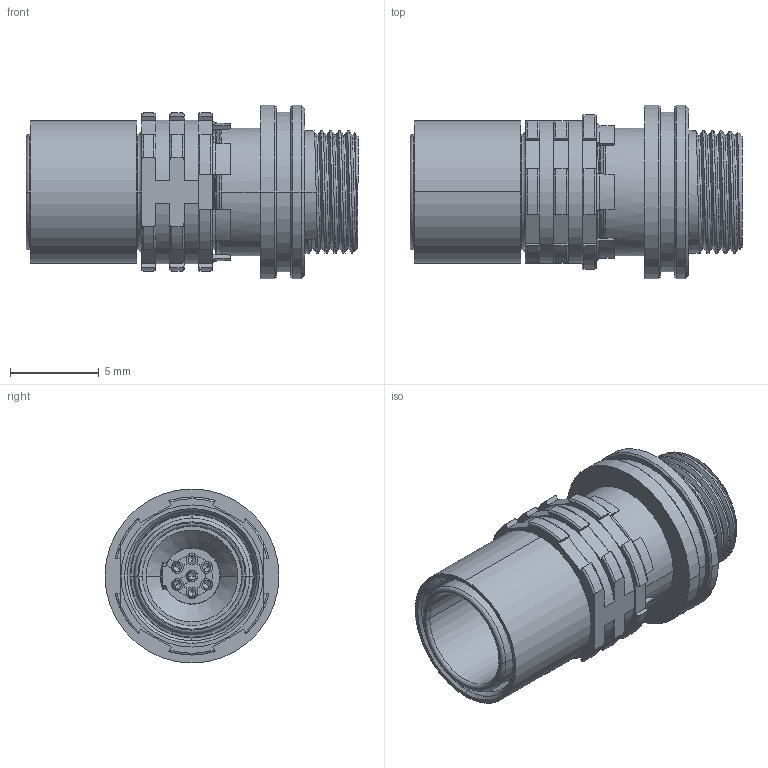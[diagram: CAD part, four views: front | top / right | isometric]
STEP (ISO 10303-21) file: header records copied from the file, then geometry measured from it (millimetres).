
FILE_DESCRIPTION((''),'2;1');
FILE_NAME('KCCW_M-P07WBC0-0000_EXTERN','2020-12-23T12:41:33',('FHeitzinger'),(''),'CREO PARAMETRIC BY PTC INC, 2018300','CREO PARAMETRIC BY PTC INC, 2018300','');
FILE_SCHEMA(('AP242_MANAGED_MODEL_BASED_3D_ENGINEERING_MIM_LF { 1 0 10303 442 1 1 4 }'));
Length unit declared in the file: millimetre
Products named in the file (1): KCCW_M-P07WBC0-0000_EXTERN
Bounding box: 18.7 x 9.8 x 9.8 mm (x, y, z)
Volume: 579.5 mm3; surface area: 1848.2 mm2
Topology: 1 solids, 1 shells, 624 faces, 1898 edges, 1254 vertices
Faces by surface type: cylinder 211, plane 200, cone 100, torus 89, bspline 22, sphere 2
Entity records: 33446 total; most frequent: CARTESIAN_POINT 13900, ORIENTED_EDGE 3768, DIRECTION 3466, EDGE_CURVE 1884, AXIS2_PLACEMENT_3D 1370, VERTEX_POINT 1254, CIRCLE 768, VECTOR 726
